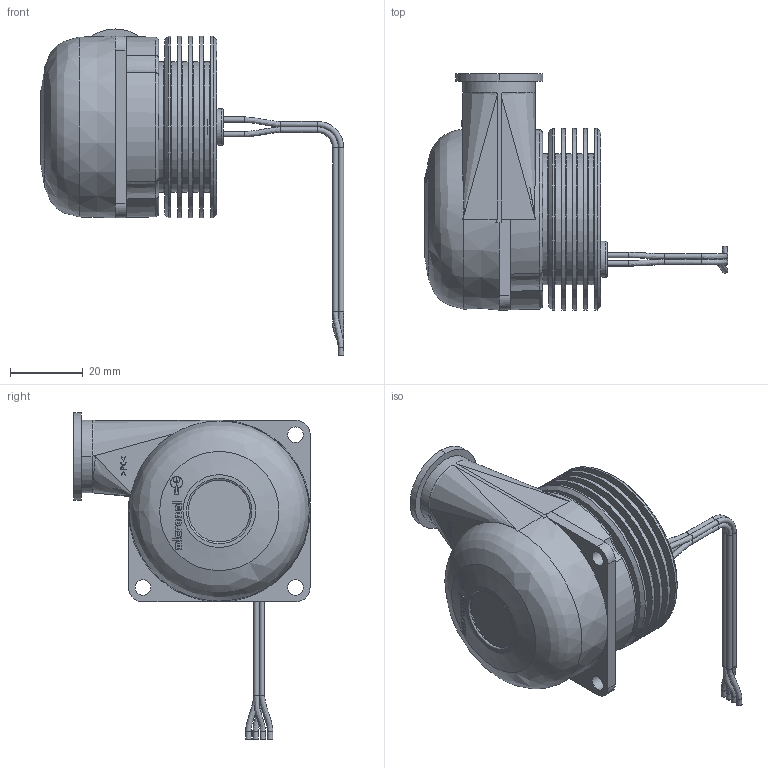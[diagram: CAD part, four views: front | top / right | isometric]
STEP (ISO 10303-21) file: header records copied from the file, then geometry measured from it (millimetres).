
FILE_DESCRIPTION(/* description */ (''),/* implementation_level */ '2;1');
FILE_NAME(/* name */ 'U51DL-024KK-4.stp',/* time_stamp */ '2014-04-25T12:42:01+02:00',/* author */ (''),/* organization */ (''),/* preprocessor_version */ 'ST-DEVELOPER v11',/* originating_system */ 'SIEMENS PLM Software NX 7.5',/* authorisation */ '');
FILE_SCHEMA (('AUTOMOTIVE_DESIGN { 1 0 10303 214 1 1 1 1 }'));
Length unit declared in the file: millimetre
Products named in the file (1): polt1F01kxef
Bounding box: 83.48 x 65 x 89.75 mm (x, y, z)
Volume: 87171.6 mm3; surface area: 27102.1 mm2
Topology: 1 solids, 6 shells, 362 faces, 916 edges, 601 vertices
Faces by surface type: plane 161, bspline 78, cylinder 63, cone 46, torus 14
Full cylindrical faces by diameter (mm): 1.5 x16, 4.3 x3, 9.2 x1, 10 x1, 17 x1, 20 x1, 33 x1, 36 x5, 38 x1, 50 x5
Entity records: 16440 total; most frequent: CARTESIAN_POINT 6633, ORIENTED_EDGE 1626, DIRECTION 1211, EDGE_CURVE 813, VERTEX_POINT 572, AXIS2_PLACEMENT_3D 496, EDGE_LOOP 491, PRESENTATION_STYLE_ASSIGNMENT 363
